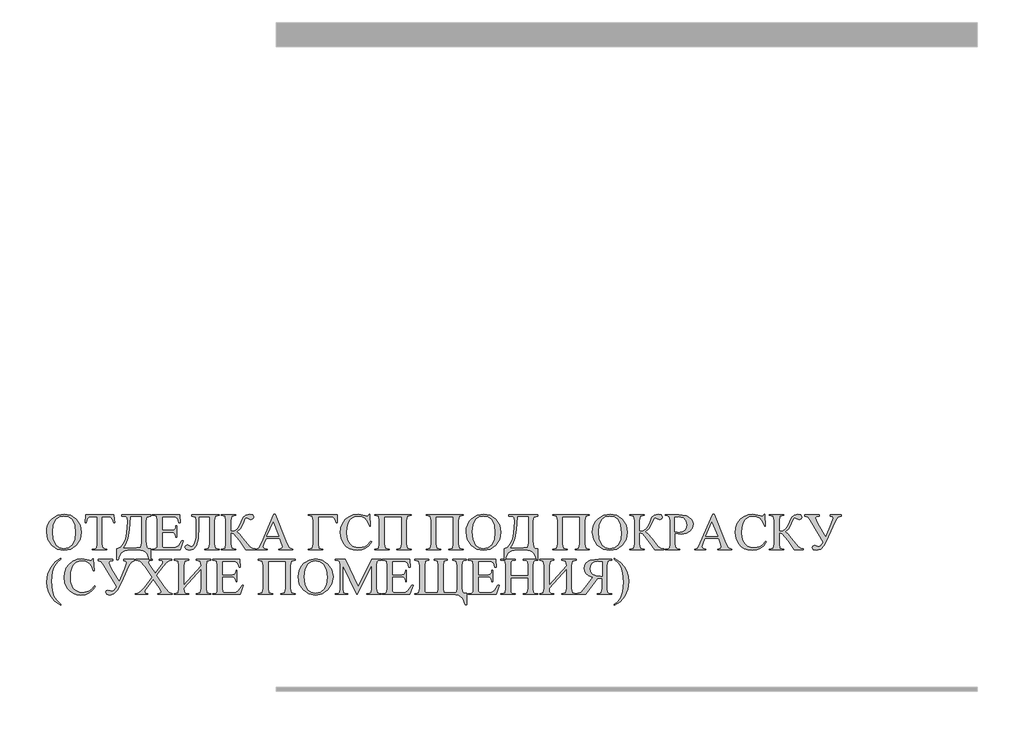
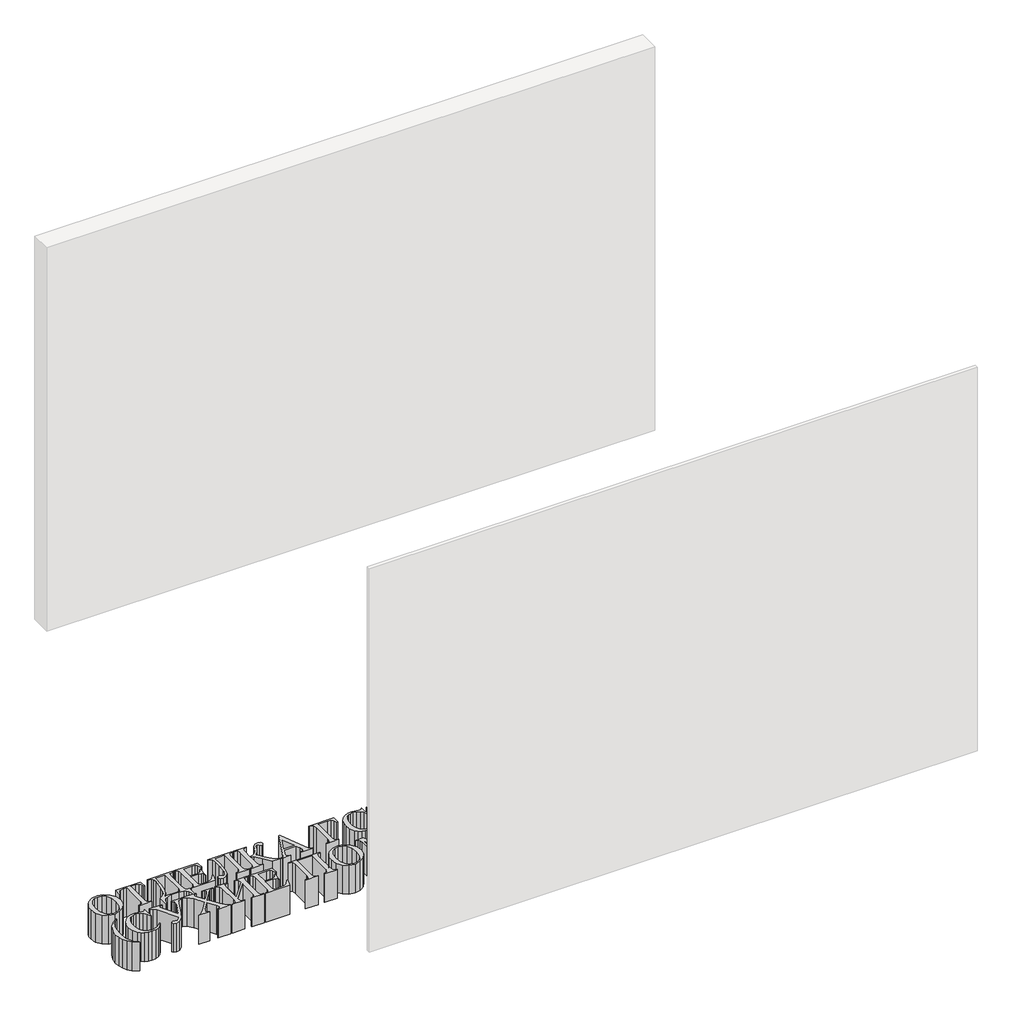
# One storey, part 6 of 17: 1 proxy.
"""IFC4 building model written with IfcOpenShell, lengths in millimetres."""

from ifc_helpers import new_model, si_unit, origin, origin_with_axes, place, context, project, spatial, polyline, outline, extrude, element, save

model = new_model("IFC4")

# Units and contexts
model_context = context("Model", 3, world=origin())
ifc_project = project(units=[si_unit("LENGTHUNIT", "METRE", prefix="MILLI")], contexts=[model_context])

# Site, building, storey
site = spatial("IfcSite", under=ifc_project)
building = spatial("IfcBuilding", under=site)
storey = spatial("IfcBuildingStorey", under=building, Name="Уровень 1", Elevation=0.0)

# Proxy
placement = place(None, origin())
element("IfcBuildingElementProxy", 1, Name="SG_Текст 2", ObjectType="SG_Текст 2", at=placement, inside=storey, context=model_context, shape_type="SweptSolid", body=[
    extrude(outline(polyline([(-694.4542029, -4581.7651295), (-666.748358, -4587.2258459), (-643.0048009, -4603.6079952), (-626.682991, -4628.1560778), (-621.2423877, -4658.1145939), (-626.7232173, -4688.9228901), (-643.165706, -4714.008999), (-667.3919784, -4730.6777605), (-696.2241589, -4736.2340144), (-725.2021597, -4730.8135242), (-749.1418199, -4714.5520537), (-765.2071873, -4689.682161), (-770.5623098, -4658.4364041), (-769.0161124, -4641.6645628), (-764.3775204, -4626.5068006), (-756.6465337, -4612.9631176), (-745.8231524, -4601.0335138), (-722.2405004, -4586.5822256), (-694.4542029, -4581.7651295)]), holes=[polyline([(-696.5861954, -4589.4885737), (-715.0299411, -4593.1692776), (-729.4108334, -4604.2113893), (-740.9658301, -4626.8084977), (-744.8174956, -4657.9134626), (-740.8250381, -4689.9536883), (-728.8476656, -4713.6670757), (-714.6176218, -4724.7996965), (-696.4655165, -4728.5105701), (-676.8552089, -4724.4477166), (-660.9859445, -4712.2591562), (-650.4868875, -4691.311325), (-646.9872019, -4660.9706593), (-650.8388674, -4627.824211), (-662.3938641, -4604.3320681), (-677.1166797, -4593.1994473), (-696.5861954, -4589.4885737)])]), origin_with_axes(), (0.0, 0.0, 1.0), 150.0),
    extrude(outline(polyline([(-482.2203913, -4584.3396109), (-479.6459099, -4617.8078693), (-483.8294422, -4617.8078693), (-487.2486753, -4604.5331995), (-496.6012836, -4595.1001387), (-512.028059, -4592.0630551), (-533.7100196, -4592.0630551), (-533.7100196, -4707.9147188), (-530.813728, -4726.1774463), (-518.1826786, -4731.0850515), (-513.1141683, -4731.0850515), (-513.1141683, -4733.6595329), (-574.9017223, -4733.6595329), (-574.9017223, -4731.0850515), (-569.7527594, -4731.0850515), (-561.8784667, -4729.5665098), (-556.679221, -4725.0108844), (-554.3058709, -4707.9147188), (-554.3058709, -4592.0630551), (-572.1663357, -4592.0630551), (-586.9696039, -4593.5916535), (-596.744588, -4601.657021), (-601.5717407, -4617.8078693), (-605.7954992, -4617.8078693), (-603.2210178, -4584.3396109), (-482.2203913, -4584.3396109)])), origin_with_axes(), (0.0, 0.0, 1.0), 150.0),
    extrude(outline(polyline([(-448.7521329, -4584.3396109), (-325.1770251, -4584.3396109), (-325.1770251, -4589.4885737), (-342.0921725, -4593.8732374), (-345.7728764, -4612.4577751), (-345.7728764, -4694.6802753), (-343.0173767, -4724.1661327), (-337.179539, -4728.3898913), (-325.1770251, -4729.7978108), (-325.1770251, -4777.425717), (-330.3259879, -4777.425717), (-340.6038004, -4750.6551329), (-348.1763961, -4742.1824743), (-356.6943092, -4737.0787661), (-378.235478, -4733.6595329), (-415.0827432, -4733.6595329), (-436.0506875, -4737.1089358), (-450.6025415, -4747.4571443), (-459.6735658, -4761.8480931), (-464.1990214, -4777.425717), (-469.3479843, -4777.425717), (-469.3479843, -4729.7978108), (-453.9966332, -4723.7538134), (-441.813101, -4708.679018), (-432.837614, -4686.8562654), (-427.1103986, -4660.5683965), (-423.0073188, -4613.7852421), (-425.8633841, -4597.6947332), (-432.641511, -4591.2384166), (-448.7521329, -4589.4885737), (-448.7521329, -4584.3396109)]), holes=[polyline([(-410.1349117, -4592.0630551), (-414.0971995, -4647.9826017), (-420.5132899, -4684.2817839), (-429.4636355, -4707.9398602), (-441.0286887, -4725.9360887), (-386.6427688, -4725.9360887), (-369.2449061, -4723.3414941), (-366.3687277, -4706.4263467), (-366.3687277, -4592.0630551), (-410.1349117, -4592.0630551)])]), origin_with_axes(), (0.0, 0.0, 1.0), 150.0),
    extrude(outline(polyline([(-276.2618782, -4592.0630551), (-276.2618782, -4651.2761277), (-240.2191384, -4651.2761277), (-223.3643304, -4647.6155369), (-218.949497, -4640.9681455), (-217.0488056, -4630.6802764), (-214.4743242, -4630.6802764), (-214.4743242, -4679.5954232), (-217.0488056, -4679.5954232), (-220.1060023, -4666.6425636), (-226.5019796, -4661.0309987), (-240.2191384, -4658.9995719), (-276.2618782, -4658.9995719), (-276.2618782, -4708.9606019), (-275.3366739, -4721.1893886), (-272.098459, -4724.648848), (-263.3492448, -4725.9360887), (-236.7999052, -4725.9360887), (-217.5114078, -4724.0856802), (-205.9463545, -4716.7644987), (-191.3039915, -4695.0423117), (-186.1550287, -4695.0423117), (-199.7515086, -4733.6595329), (-317.4535808, -4733.6595329), (-317.4535808, -4731.0850515), (-312.3448443, -4731.0850515), (-302.6905389, -4728.4301176), (-298.0846308, -4722.9392314), (-296.8577295, -4707.9147188), (-296.8577295, -4610.084425), (-299.6333423, -4591.5803399), (-312.3448443, -4586.9140923), (-317.4535808, -4586.9140923), (-317.4535808, -4584.3396109), (-201.6019172, -4584.3396109), (-199.0274357, -4617.8078693), (-204.1763986, -4617.8078693), (-209.4460402, -4600.8323825), (-218.0142362, -4593.7927848), (-234.0242925, -4592.0630551), (-276.2618782, -4592.0630551)])), origin_with_axes(), (0.0, 0.0, 1.0), 150.0),
    extrude(outline(polyline([(-72.8778464, -4592.0630551), (-119.2185119, -4592.0630551), (-119.2185119, -4634.2604146), (-122.0041812, -4686.9316896), (-130.3611893, -4717.1868745), (-143.6157459, -4731.4722294), (-161.0940612, -4736.2340144), (-173.926242, -4732.2516134), (-178.4315844, -4722.9995708), (-175.5352928, -4716.0203126), (-168.4956952, -4713.0636816), (-160.5711196, -4716.7242724), (-151.5202084, -4720.7871259), (-142.6855134, -4716.7896401), (-135.650944, -4704.7971827), (-131.0500642, -4681.6519914), (-129.5164376, -4644.1963038), (-129.5164376, -4612.739359), (-133.1971414, -4593.9134637), (-150.1122889, -4589.4885737), (-150.1122889, -4584.3396109), (-31.6861438, -4584.3396109), (-31.6861438, -4586.9140923), (-48.6012912, -4591.3188691), (-52.2819951, -4610.084425), (-52.2819951, -4707.9147188), (-48.6012912, -4726.6802747), (-31.6861438, -4731.0850515), (-31.6861438, -4733.6595329), (-93.4736977, -4733.6595329), (-93.4736977, -4731.0850515), (-76.5585503, -4726.6802747), (-72.8778464, -4707.9147188), (-72.8778464, -4592.0630551)])), origin_with_axes(), (0.0, 0.0, 1.0), 150.0),
    extrude(outline(polyline([(121.4150478, -4729.5564532), (121.4150478, -4733.6595329), (82.4357901, -4733.6595329), (55.6450929, -4695.826724), (30.7450305, -4664.8524945), (17.2290031, -4661.5740533), (17.2290031, -4707.9147188), (20.8493676, -4726.6802747), (37.8248544, -4731.0850515), (37.8248544, -4733.6595329), (-23.9626996, -4733.6595329), (-23.9626996, -4731.0850515), (-7.0877784, -4726.720501), (-3.3668482, -4707.9147188), (-3.3668482, -4610.084425), (-7.0475521, -4591.3188691), (-23.9626996, -4586.9140923), (-23.9626996, -4584.3396109), (37.8248544, -4584.3396109), (37.8248544, -4586.9140923), (20.8493676, -4591.3188691), (17.2290031, -4610.084425), (17.2290031, -4653.8506091), (34.1039242, -4652.2214451), (44.6432075, -4645.3025263), (53.9153632, -4633.6570205), (62.6846905, -4613.1416217), (70.8908501, -4594.5168577), (81.1083232, -4585.5262859), (97.8424524, -4581.7651295), (110.7550857, -4584.8625524), (115.0592968, -4594.1548213), (111.6601768, -4601.7173605), (103.8763932, -4604.9354622), (93.3773362, -4600.8726087), (84.3666512, -4597.212018), (78.2120316, -4600.9530613), (70.0460983, -4620.0203143), (57.8575379, -4643.4018349), (42.6922333, -4656.344638), (53.3924217, -4665.1340784), (69.3220254, -4684.9052912), (98.4056202, -4720.4653157), (108.8644509, -4727.1428769), (121.4150478, -4729.5564532)])), origin_with_axes(), (0.0, 0.0, 1.0), 150.0),
    extrude(outline(polyline([(226.6872019, -4684.7443861), (168.4395599, -4684.7443861), (158.8254809, -4707.1101934), (155.0844376, -4721.0284835), (158.3427656, -4727.464687), (172.4219608, -4731.0850515), (172.4219608, -4733.6595329), (124.9549598, -4733.6595329), (124.9549598, -4731.0850515), (137.1032939, -4726.418804), (149.6136646, -4703.0473399), (201.9882708, -4581.7651295), (207.4992701, -4581.7651295), (256.6557746, -4705.0184272), (268.1202622, -4725.7349573), (282.440815, -4731.0850515), (282.440815, -4733.6595329), (223.4288739, -4733.6595329), (223.4288739, -4731.0850515), (235.5168686, -4727.7663841), (238.674631, -4720.8675784), (234.2497411, -4703.7311865), (226.6872019, -4684.7443861)]), holes=[polyline([(223.5897789, -4677.0209418), (198.7299428, -4616.3999498), (171.7783405, -4677.0209418), (223.5897789, -4677.0209418)])]), origin_with_axes(), (0.0, 0.0, 1.0), 150.0),
    extrude(outline(polyline([(472.2685931, -4584.3396109), (472.9122134, -4617.8078693), (467.7632506, -4617.8078693), (462.9964374, -4601.496116), (452.5174935, -4593.7123323), (434.5765761, -4592.0630551), (390.5288082, -4592.0630551), (390.5288082, -4707.9147188), (394.1893989, -4726.6802747), (411.1246595, -4731.0850515), (411.1246595, -4733.6595329), (349.3371055, -4733.6595329), (349.3371055, -4731.0850515), (366.252253, -4726.6802747), (369.9329569, -4707.9147188), (369.9329569, -4610.084425), (366.252253, -4591.3188691), (349.3371055, -4586.9140923), (349.3371055, -4584.3396109), (472.2685931, -4584.3396109)])), origin_with_axes(), (0.0, 0.0, 1.0), 150.0),
    extrude(outline(polyline([(611.9342098, -4581.7651295), (614.5086912, -4633.2547578), (611.9342098, -4633.2547578), (603.8235877, -4613.2271026), (592.8468437, -4599.72616), (579.2051092, -4592.0479703), (563.0995155, -4589.4885737), (549.2365365, -4591.3440105), (536.7714204, -4596.9103209), (526.2623068, -4606.5445131), (518.2673352, -4620.6035952), (513.2139098, -4638.8612945), (511.5294346, -4661.0913381), (513.1334572, -4679.7161021), (517.945525, -4695.6859321), (525.9857512, -4708.6186786), (537.2742488, -4718.1321919), (551.0919733, -4723.9851145), (566.71988, -4725.9360887), (592.0825445, -4720.2440712), (603.6224563, -4711.7412429), (616.2384209, -4697.6167931), (619.6576541, -4700.1912746), (607.5445179, -4716.3873774), (593.5709166, -4727.5652527), (577.2641915, -4734.0668239), (558.151684, -4736.2340144), (540.7110809, -4734.5319402), (525.3572157, -4729.4257178), (512.0900883, -4720.9153471), (500.9096988, -4709.0008281), (489.5658901, -4686.9367179), (485.7846205, -4661.2924694), (488.2836777, -4640.0680826), (495.7808491, -4620.6438215), (507.6626842, -4604.206361), (523.3157324, -4591.9423763), (541.668969, -4584.3094412), (561.6513697, -4581.7651295), (593.5105772, -4587.6783915), (600.1076858, -4589.4885737), (605.2968749, -4587.9197491), (609.3597284, -4581.7651295), (611.9342098, -4581.7651295)])), origin_with_axes(), (0.0, 0.0, 1.0), 150.0),
    extrude(outline(polyline([(748.3817248, -4592.0630551), (673.7217638, -4592.0630551), (673.7217638, -4707.9147188), (677.3421282, -4726.6802747), (694.3176151, -4731.0850515), (694.3176151, -4733.6595329), (632.5300611, -4733.6595329), (632.5300611, -4731.0850515), (649.4452085, -4726.6802747), (653.1259124, -4707.9147188), (653.1259124, -4610.084425), (649.4452085, -4591.3188691), (632.5300611, -4586.9140923), (632.5300611, -4584.3396109), (789.5734274, -4584.3396109), (789.5734274, -4586.9140923), (772.65828, -4591.3188691), (768.9775761, -4610.084425), (768.9775761, -4707.9147188), (772.65828, -4726.6802747), (789.5734274, -4731.0850515), (789.5734274, -4733.6595329), (727.7858735, -4733.6595329), (727.7858735, -4731.0850515), (744.6809077, -4726.720501), (748.3817248, -4707.9147188), (748.3817248, -4592.0630551)])), origin_with_axes(), (0.0, 0.0, 1.0), 150.0),
    extrude(outline(polyline([(969.7871264, -4592.0630551), (895.1271654, -4592.0630551), (895.1271654, -4707.9147188), (898.7475299, -4726.6802747), (915.7230167, -4731.0850515), (915.7230167, -4733.6595329), (853.9354628, -4733.6595329), (853.9354628, -4731.0850515), (870.8506102, -4726.6802747), (874.5313141, -4707.9147188), (874.5313141, -4610.084425), (870.8506102, -4591.3188691), (853.9354628, -4586.9140923), (853.9354628, -4584.3396109), (1010.978829, -4584.3396109), (1010.978829, -4586.9140923), (994.0636816, -4591.3188691), (990.3829777, -4610.084425), (990.3829777, -4707.9147188), (994.0636816, -4726.6802747), (1010.978829, -4731.0850515), (1010.978829, -4733.6595329), (949.1912751, -4733.6595329), (949.1912751, -4731.0850515), (966.0863094, -4726.720501), (969.7871264, -4707.9147188), (969.7871264, -4592.0630551)])), origin_with_axes(), (0.0, 0.0, 1.0), 150.0),
    extrude(outline(polyline([(1099.9593429, -4581.7651295), (1127.6651878, -4587.2258459), (1151.408745, -4603.6079952), (1167.7305549, -4628.1560778), (1173.1711582, -4658.1145939), (1167.6903286, -4688.9228901), (1151.2478399, -4714.008999), (1127.0215675, -4730.6777605), (1098.189387, -4736.2340144), (1069.2113862, -4730.8135242), (1045.271726, -4714.5520537), (1029.2063586, -4689.682161), (1023.8512361, -4658.4364041), (1025.3974335, -4641.6645628), (1030.0360255, -4626.5068006), (1037.7670121, -4612.9631176), (1048.5903935, -4601.0335138), (1072.1730455, -4586.5822256), (1099.9593429, -4581.7651295)]), holes=[polyline([(1097.8273505, -4589.4885737), (1079.3836048, -4593.1692776), (1065.0027125, -4604.2113893), (1053.4477158, -4626.8084977), (1049.5960503, -4657.9134626), (1053.5885078, -4689.9536883), (1065.5658803, -4713.6670757), (1079.795924, -4724.7996965), (1097.9480293, -4728.5105701), (1117.558337, -4724.4477166), (1133.4276013, -4712.2591562), (1143.9266583, -4691.311325), (1147.426344, -4660.9706593), (1143.5746785, -4627.824211), (1132.0196818, -4604.3320681), (1117.2968662, -4593.1994473), (1097.8273505, -4589.4885737)])]), origin_with_axes(), (0.0, 0.0, 1.0), 150.0),
    extrude(outline(polyline([(1206.6394165, -4584.3396109), (1330.2145244, -4584.3396109), (1330.2145244, -4589.4885737), (1313.299377, -4593.8732374), (1309.6186731, -4612.4577751), (1309.6186731, -4694.6802753), (1312.3741728, -4724.1661327), (1318.2120105, -4728.3898913), (1330.2145244, -4729.7978108), (1330.2145244, -4777.425717), (1325.0655616, -4777.425717), (1314.7877491, -4750.6551329), (1307.2151534, -4742.1824743), (1298.6972403, -4737.0787661), (1277.1560715, -4733.6595329), (1240.3088063, -4733.6595329), (1219.340862, -4737.1089358), (1204.789008, -4747.4571443), (1195.7179837, -4761.8480931), (1191.1925281, -4777.425717), (1186.0435652, -4777.425717), (1186.0435652, -4729.7978108), (1201.3949163, -4723.7538134), (1213.5784485, -4708.679018), (1222.5539354, -4686.8562654), (1228.2811509, -4660.5683965), (1232.3842307, -4613.7852421), (1229.5281654, -4597.6947332), (1222.7500385, -4591.2384166), (1206.6394165, -4589.4885737), (1206.6394165, -4584.3396109)]), holes=[polyline([(1245.2566378, -4592.0630551), (1241.29435, -4647.9826017), (1234.8782596, -4684.2817839), (1225.927914, -4707.9398602), (1214.3628608, -4725.9360887), (1268.7487807, -4725.9360887), (1286.1466434, -4723.3414941), (1289.0228218, -4706.4263467), (1289.0228218, -4592.0630551), (1245.2566378, -4592.0630551)])]), origin_with_axes(), (0.0, 0.0, 1.0), 150.0),
    extrude(outline(polyline([(1510.4282235, -4592.0630551), (1435.7682624, -4592.0630551), (1435.7682624, -4707.9147188), (1439.3886269, -4726.6802747), (1456.3641137, -4731.0850515), (1456.3641137, -4733.6595329), (1394.5765598, -4733.6595329), (1394.5765598, -4731.0850515), (1411.4917072, -4726.6802747), (1415.1724111, -4707.9147188), (1415.1724111, -4610.084425), (1411.4917072, -4591.3188691), (1394.5765598, -4586.9140923), (1394.5765598, -4584.3396109), (1551.6199261, -4584.3396109), (1551.6199261, -4586.9140923), (1534.7047787, -4591.3188691), (1531.0240748, -4610.084425), (1531.0240748, -4707.9147188), (1534.7047787, -4726.6802747), (1551.6199261, -4731.0850515), (1551.6199261, -4733.6595329), (1489.8323721, -4733.6595329), (1489.8323721, -4731.0850515), (1506.7274064, -4726.720501), (1510.4282235, -4707.9147188), (1510.4282235, -4592.0630551)])), origin_with_axes(), (0.0, 0.0, 1.0), 150.0),
    extrude(outline(polyline([(1640.60044, -4581.7651295), (1668.3062849, -4587.2258459), (1692.049842, -4603.6079952), (1708.3716519, -4628.1560778), (1713.8122552, -4658.1145939), (1708.3314256, -4688.9228901), (1691.8889369, -4714.008999), (1667.6626645, -4730.6777605), (1638.830484, -4736.2340144), (1609.8524832, -4730.8135242), (1585.912823, -4714.5520537), (1569.8474556, -4689.682161), (1564.4923332, -4658.4364041), (1566.0385305, -4641.6645628), (1570.6771225, -4626.5068006), (1578.4081092, -4612.9631176), (1589.2314905, -4601.0335138), (1612.8141425, -4586.5822256), (1640.60044, -4581.7651295)]), holes=[polyline([(1638.4684475, -4589.4885737), (1620.0247018, -4593.1692776), (1605.6438095, -4604.2113893), (1594.0888129, -4626.8084977), (1590.2371473, -4657.9134626), (1594.2296048, -4689.9536883), (1606.2069773, -4713.6670757), (1620.4370211, -4724.7996965), (1638.5891264, -4728.5105701), (1658.199434, -4724.4477166), (1674.0686984, -4712.2591562), (1684.5677554, -4691.311325), (1688.067441, -4660.9706593), (1684.2157755, -4627.824211), (1672.6607788, -4604.3320681), (1657.9379632, -4593.1994473), (1638.4684475, -4589.4885737)])]), origin_with_axes(), (0.0, 0.0, 1.0), 150.0),
    extrude(outline(polyline([(1869.4879282, -4729.5564532), (1869.4879282, -4733.6595329), (1830.5086706, -4733.6595329), (1803.7179733, -4695.826724), (1778.8179109, -4664.8524945), (1765.3018835, -4661.5740533), (1765.3018835, -4707.9147188), (1768.922248, -4726.6802747), (1785.8977348, -4731.0850515), (1785.8977348, -4733.6595329), (1724.1101809, -4733.6595329), (1724.1101809, -4731.0850515), (1740.985102, -4726.720501), (1744.7060322, -4707.9147188), (1744.7060322, -4610.084425), (1741.0253283, -4591.3188691), (1724.1101809, -4586.9140923), (1724.1101809, -4584.3396109), (1785.8977348, -4584.3396109), (1785.8977348, -4586.9140923), (1768.922248, -4591.3188691), (1765.3018835, -4610.084425), (1765.3018835, -4653.8506091), (1782.1768046, -4652.2214451), (1792.7160879, -4645.3025263), (1801.9882436, -4633.6570205), (1810.757571, -4613.1416217), (1818.9637305, -4594.5168577), (1829.1812036, -4585.5262859), (1845.9153328, -4581.7651295), (1858.8279661, -4584.8625524), (1863.1321772, -4594.1548213), (1859.7330572, -4601.7173605), (1851.9492736, -4604.9354622), (1841.4502166, -4600.8726087), (1832.4395316, -4597.212018), (1826.284912, -4600.9530613), (1818.1189788, -4620.0203143), (1805.9304183, -4643.4018349), (1790.7651137, -4656.344638), (1801.4653021, -4665.1340784), (1817.3949059, -4684.9052912), (1846.4785006, -4720.4653157), (1856.9373313, -4727.1428769), (1869.4879282, -4729.5564532)])), origin_with_axes(), (0.0, 0.0, 1.0), 150.0),
    extrude(outline(polyline([(1917.1962869, -4663.3842356), (1917.1962869, -4707.9147188), (1920.1730311, -4726.0567675), (1932.281139, -4731.0850515), (1937.7921383, -4731.0850515), (1937.7921383, -4733.6595329), (1876.0045843, -4733.6595329), (1876.0045843, -4731.0850515), (1881.435131, -4731.0850515), (1889.259141, -4729.4860572), (1894.4684432, -4724.6890743), (1896.6004356, -4707.9147188), (1896.6004356, -4610.084425), (1893.7443703, -4591.9423763), (1881.435131, -4586.9140923), (1876.0045843, -4586.9140923), (1876.0045843, -4584.3396109), (1932.9649856, -4584.3396109), (1965.8901893, -4588.4628038), (1976.9876121, -4594.0039728), (1986.1843436, -4602.3810939), (1992.3691329, -4613.076254), (1994.4307294, -4625.5715398), (1991.1623448, -4642.1296791), (1981.3571909, -4655.2786418), (1965.5884923, -4663.8619226), (1944.4294731, -4666.7230162), (1931.7581974, -4665.8782645), (1917.1962869, -4663.3842356)]), holes=[polyline([(1917.1962869, -4656.787127), (1928.741227, -4658.4364041), (1937.3496493, -4658.9995719), (1949.2616541, -4656.7670138), (1959.4137595, -4650.0693395), (1966.3678763, -4639.8116401), (1968.6859152, -4626.8990068), (1964.2610253, -4608.7770712), (1951.7305415, -4596.2264743), (1933.2867958, -4592.0630551), (1917.1962869, -4594.1548213), (1917.1962869, -4656.787127)])]), origin_with_axes(), (0.0, 0.0, 1.0), 150.0),
    extrude(outline(polyline([(2103.484153, -4684.7443861), (2045.236511, -4684.7443861), (2035.622432, -4707.1101934), (2031.8813887, -4721.0284835), (2035.1397167, -4727.464687), (2049.218912, -4731.0850515), (2049.218912, -4733.6595329), (2001.7519109, -4733.6595329), (2001.7519109, -4731.0850515), (2013.9002451, -4726.418804), (2026.4106157, -4703.0473399), (2078.785222, -4581.7651295), (2084.2962212, -4581.7651295), (2133.4527257, -4705.0184272), (2144.9172133, -4725.7349573), (2159.2377662, -4731.0850515), (2159.2377662, -4733.6595329), (2100.225825, -4733.6595329), (2100.225825, -4731.0850515), (2112.3138198, -4727.7663841), (2115.4715821, -4720.8675784), (2111.0466922, -4703.7311865), (2103.484153, -4684.7443861)]), holes=[polyline([(2100.3867301, -4677.0209418), (2075.5268939, -4616.3999498), (2048.5752916, -4677.0209418), (2100.3867301, -4677.0209418)])]), origin_with_axes(), (0.0, 0.0, 1.0), 150.0),
    extrude(outline(polyline([(2300.7940177, -4581.7651295), (2303.3684991, -4633.2547578), (2300.7940177, -4633.2547578), (2292.6833956, -4613.2271026), (2281.7066516, -4599.72616), (2268.0649171, -4592.0479703), (2251.9593234, -4589.4885737), (2238.0963443, -4591.3440105), (2225.6312283, -4596.9103209), (2215.1221147, -4606.5445131), (2207.1271431, -4620.6035952), (2202.0737177, -4638.8612945), (2200.3892425, -4661.0913381), (2201.9932651, -4679.7161021), (2206.8053329, -4695.6859321), (2214.8455591, -4708.6186786), (2226.1340567, -4718.1321919), (2239.9517811, -4723.9851145), (2255.5796878, -4725.9360887), (2280.9423524, -4720.2440712), (2292.4822642, -4711.7412429), (2305.0982288, -4697.6167931), (2308.5174619, -4700.1912746), (2296.4043257, -4716.3873774), (2282.4307245, -4727.5652527), (2266.1239994, -4734.0668239), (2247.0114919, -4736.2340144), (2229.5708888, -4734.5319402), (2214.2170236, -4729.4257178), (2200.9498962, -4720.9153471), (2189.7695067, -4709.0008281), (2178.425698, -4686.9367179), (2174.6444284, -4661.2924694), (2177.1434855, -4640.0680826), (2184.640657, -4620.6438215), (2196.5224921, -4604.206361), (2212.1755403, -4591.9423763), (2230.5287769, -4584.3094412), (2250.5111776, -4581.7651295), (2282.3703851, -4587.6783915), (2288.9674937, -4589.4885737), (2294.1566828, -4587.9197491), (2298.2195363, -4581.7651295), (2300.7940177, -4581.7651295)])), origin_with_axes(), (0.0, 0.0, 1.0), 150.0),
    extrude(outline(polyline([(2466.7676164, -4729.5564532), (2466.7676164, -4733.6595329), (2427.7883587, -4733.6595329), (2400.9976615, -4695.826724), (2376.0975991, -4664.8524945), (2362.5815716, -4661.5740533), (2362.5815716, -4707.9147188), (2366.2019361, -4726.6802747), (2383.177423, -4731.0850515), (2383.177423, -4733.6595329), (2321.389869, -4733.6595329), (2321.389869, -4731.0850515), (2338.2647902, -4726.720501), (2341.9857203, -4707.9147188), (2341.9857203, -4610.084425), (2338.3050164, -4591.3188691), (2321.389869, -4586.9140923), (2321.389869, -4584.3396109), (2383.177423, -4584.3396109), (2383.177423, -4586.9140923), (2366.2019361, -4591.3188691), (2362.5815716, -4610.084425), (2362.5815716, -4653.8506091), (2379.4564928, -4652.2214451), (2389.9957761, -4645.3025263), (2399.2679318, -4633.6570205), (2408.0372591, -4613.1416217), (2416.2434186, -4594.5168577), (2426.4608917, -4585.5262859), (2443.1950209, -4581.7651295), (2456.1076543, -4584.8625524), (2460.4118654, -4594.1548213), (2457.0127454, -4601.7173605), (2449.2289617, -4604.9354622), (2438.7299047, -4600.8726087), (2429.7192198, -4597.212018), (2423.5646001, -4600.9530613), (2415.3986669, -4620.0203143), (2403.2101065, -4643.4018349), (2388.0448019, -4656.344638), (2398.7449903, -4665.1340784), (2414.674594, -4684.9052912), (2443.7581887, -4720.4653157), (2454.2170195, -4727.1428769), (2466.7676164, -4729.5564532)])), origin_with_axes(), (0.0, 0.0, 1.0), 150.0),
    extrude(outline(polyline([(2473.2842725, -4584.3396109), (2535.0718264, -4584.3396109), (2535.0718264, -4589.4885737), (2521.555799, -4591.7613581), (2517.0504565, -4597.3729231), (2528.9976593, -4622.9970584), (2562.1038813, -4679.9574597), (2586.5614547, -4622.9970584), (2594.2848989, -4599.3037841), (2591.0667972, -4592.8675806), (2581.4124919, -4589.4885737), (2581.4124919, -4584.3396109), (2627.7531573, -4584.3396109), (2627.7531573, -4589.4885737), (2613.2415297, -4595.814155), (2602.6921898, -4611.0096293), (2573.6890476, -4678.7506715), (2555.3257544, -4715.5375974), (2539.8989791, -4731.2459566), (2522.5614558, -4736.2340144), (2509.5080305, -4733.1365914), (2504.1780494, -4724.6890743), (2506.9134359, -4718.2126445), (2514.3552963, -4715.638163), (2525.3370686, -4718.8160385), (2531.8134984, -4720.7871259), (2540.9850884, -4715.9499167), (2551.2025615, -4701.438289), (2496.7764154, -4607.9122064), (2486.3175846, -4594.697876), (2473.2842725, -4589.4885737), (2473.2842725, -4584.3396109)])), origin_with_axes(), (0.0, 0.0, 1.0), 150.0),
    extrude(outline(polyline([(-708.7747558, -4966.0429382), (-708.7747558, -4971.191901), (-736.9733725, -4951.963743), (-751.2536991, -4934.9128319), (-761.8332087, -4915.0561383), (-768.3800345, -4893.3892625), (-770.5623098, -4870.9078047), (-766.2832401, -4838.9078052), (-753.446031, -4809.8443236), (-733.7200728, -4786.1812191), (-708.7747558, -4770.3823507), (-708.7747558, -4775.5313135), (-721.632078, -4784.144764), (-731.9652017, -4795.4232051), (-739.884749, -4809.7236448), (-745.5013422, -4827.4030914), (-749.9664584, -4867.850608), (-746.1851889, -4909.4445734), (-738.964573, -4933.1378476), (-727.5403117, -4950.3144658), (-708.7747558, -4966.0429382)])), origin_with_axes(), (0.0, 0.0, 1.0), 150.0),
    extrude(outline(polyline([(-569.7527594, -4772.9568321), (-567.178278, -4824.4464604), (-569.7527594, -4824.4464604), (-577.8633815, -4804.4188052), (-588.8401255, -4790.9178626), (-602.4818601, -4783.2396729), (-618.5874538, -4780.6802764), (-632.4504328, -4782.5357132), (-644.9155488, -4788.1020236), (-655.4246624, -4797.7362157), (-663.419634, -4811.7952978), (-668.4730594, -4830.0529971), (-670.1575346, -4852.2830407), (-668.553512, -4870.9078047), (-663.7414442, -4886.8776347), (-655.7012181, -4899.8103812), (-644.4127204, -4909.3238945), (-630.594996, -4915.1768171), (-614.9670893, -4917.1277913), (-589.6044247, -4911.4357738), (-578.0645129, -4902.9329456), (-565.4485483, -4888.8084958), (-562.0293152, -4891.3829772), (-574.1424514, -4907.57908), (-588.1160526, -4918.7569554), (-604.4227777, -4925.2585266), (-623.5352852, -4927.425717), (-640.9758883, -4925.7236429), (-656.3297536, -4920.6174204), (-669.5968809, -4912.1070497), (-680.7772704, -4900.1925308), (-692.1210792, -4878.1284205), (-695.9023487, -4852.4841721), (-693.4032916, -4831.2597852), (-685.9061201, -4811.8355241), (-674.024285, -4795.3980637), (-658.3712369, -4783.134079), (-640.0180002, -4775.5011438), (-620.0355995, -4772.9568321), (-588.176392, -4778.8700941), (-581.5792834, -4780.6802764), (-576.3900943, -4779.1114518), (-572.3272408, -4772.9568321), (-569.7527594, -4772.9568321)])), origin_with_axes(), (0.0, 0.0, 1.0), 150.0),
    extrude(outline(polyline([(-549.1569081, -4775.5313135), (-487.3693542, -4775.5313135), (-487.3693542, -4780.6802764), (-500.8853816, -4782.9530607), (-505.3907241, -4788.5646257), (-493.4435212, -4814.188761), (-460.3372993, -4871.1491623), (-435.8797259, -4814.188761), (-428.1562816, -4790.4954868), (-431.3743834, -4784.0592832), (-441.0286887, -4780.6802764), (-441.0286887, -4775.5313135), (-394.6880232, -4775.5313135), (-394.6880232, -4780.6802764), (-409.1996509, -4787.0058577), (-419.7489908, -4802.2013319), (-448.7521329, -4869.9423742), (-467.1154262, -4906.7293), (-482.5422015, -4922.4376592), (-499.8797248, -4927.425717), (-512.9331501, -4924.328294), (-518.2631311, -4915.8807769), (-515.5277446, -4909.4043471), (-508.0858843, -4906.8298657), (-497.104112, -4910.0077412), (-490.6276822, -4911.9788285), (-481.4560922, -4907.1416193), (-471.238619, -4892.6299916), (-525.6647652, -4799.103909), (-536.1235959, -4785.8895786), (-549.1569081, -4780.6802764), (-549.1569081, -4775.5313135)])), origin_with_axes(), (0.0, 0.0, 1.0), 150.0),
    extrude(outline(polyline([(-300.5987728, -4842.427604), (-268.5384339, -4889.7739263), (-248.6666555, -4916.1824739), (-232.2543365, -4922.2767542), (-232.2543365, -4924.8512356), (-295.4095837, -4924.8512356), (-295.4095837, -4922.2767542), (-285.9161835, -4920.8688346), (-282.0946876, -4917.6105066), (-280.6063156, -4913.1856167), (-281.5717461, -4907.7550699), (-287.6861395, -4897.3364655), (-313.4309536, -4859.3226383), (-344.1235992, -4899.5891367), (-350.0972006, -4908.6199348), (-351.0827443, -4913.3062955), (-348.1060001, -4919.4810282), (-336.7219651, -4922.2767542), (-336.7219651, -4924.8512356), (-390.4240384, -4924.8512356), (-390.4240384, -4922.2767542), (-380.6892805, -4919.8229516), (-367.6559684, -4911.5966789), (-353.4963206, -4895.7676408), (-319.2235368, -4850.7544424), (-348.3473578, -4807.1893897), (-368.8225303, -4783.9587175), (-388.1713672, -4778.105795), (-388.1713672, -4775.5313135), (-319.1833105, -4775.5313135), (-319.1833105, -4778.105795), (-331.2914184, -4781.2032179), (-334.5497465, -4787.277385), (-329.2398785, -4800.1497921), (-306.391356, -4833.8996344), (-279.8420164, -4799.0636827), (-274.1298858, -4790.9580889), (-273.0840027, -4786.4326333), (-274.4114697, -4782.3697798), (-278.6151151, -4779.151678), (-289.1342852, -4778.105795), (-289.1342852, -4775.5313135), (-235.8344747, -4775.5313135), (-235.8344747, -4778.105795), (-246.1324004, -4780.1573348), (-257.0739464, -4787.1567062), (-271.1129153, -4803.4885726), (-300.5987728, -4842.427604)])), origin_with_axes(), (0.0, 0.0, 1.0), 150.0),
    extrude(outline(polyline([(-108.9205862, -4801.2761277), (-113.0035529, -4782.1284222), (-129.5164376, -4778.105795), (-129.5164376, -4775.5313135), (-67.7288836, -4775.5313135), (-67.7288836, -4778.105795), (-84.644031, -4782.5105717), (-88.3247349, -4801.2761277), (-88.3247349, -4899.1064214), (-84.644031, -4917.8719774), (-67.7288836, -4922.2767542), (-67.7288836, -4924.8512356), (-129.5164376, -4924.8512356), (-129.5164376, -4922.2767542), (-112.5409507, -4917.811638), (-108.9205862, -4899.1064214), (-108.9205862, -4814.1485348), (-183.5805473, -4899.1064214), (-182.3737591, -4913.9298027), (-177.2650225, -4919.8631778), (-162.9846959, -4922.2767542), (-162.9846959, -4924.8512356), (-224.7722499, -4924.8512356), (-224.7722499, -4922.2767542), (-207.8571025, -4917.8719774), (-204.1763986, -4899.1064214), (-204.1763986, -4801.2761277), (-207.8571025, -4782.5105717), (-224.7722499, -4778.105795), (-224.7722499, -4775.5313135), (-162.9846959, -4775.5313135), (-162.9846959, -4778.105795), (-179.9199565, -4782.5105717), (-183.5805473, -4801.2761277), (-183.5805473, -4886.2340144), (-108.9205862, -4801.2761277)])), origin_with_axes(), (0.0, 0.0, 1.0), 150.0),
    extrude(outline(polyline([(-18.8137367, -4783.2547578), (-18.8137367, -4842.4678303), (17.2290031, -4842.4678303), (34.0838111, -4838.8072396), (38.4986444, -4832.1598481), (40.3993358, -4821.871979), (42.9738172, -4821.871979), (42.9738172, -4870.7871259), (40.3993358, -4870.7871259), (37.3421391, -4857.8342663), (30.9461619, -4852.2227013), (17.2290031, -4850.1912746), (-18.8137367, -4850.1912746), (-18.8137367, -4900.1523045), (-17.8885325, -4912.3810912), (-14.6503176, -4915.8405506), (-5.9011034, -4917.1277913), (20.6482362, -4917.1277913), (39.9367337, -4915.2773828), (51.5017869, -4907.9562013), (66.1441499, -4886.2340144), (71.2931128, -4886.2340144), (57.6966328, -4924.8512356), (-60.0054394, -4924.8512356), (-60.0054394, -4922.2767542), (-54.8967028, -4922.2767542), (-45.2423975, -4919.6218202), (-40.6364893, -4914.1309341), (-39.409588, -4899.1064214), (-39.409588, -4801.2761277), (-42.1852008, -4782.7720425), (-54.8967028, -4778.105795), (-60.0054394, -4778.105795), (-60.0054394, -4775.5313135), (55.8462243, -4775.5313135), (58.4207057, -4808.9995719), (53.2717429, -4808.9995719), (48.0021012, -4792.0240851), (39.4339053, -4784.9844875), (23.423849, -4783.2547578), (-18.8137367, -4783.2547578)])), origin_with_axes(), (0.0, 0.0, 1.0), 150.0),
    extrude(outline(polyline([(251.5068118, -4783.2547578), (176.8468508, -4783.2547578), (176.8468508, -4899.1064214), (180.4672153, -4917.8719774), (197.4427021, -4922.2767542), (197.4427021, -4924.8512356), (135.6551481, -4924.8512356), (135.6551481, -4922.2767542), (152.5702956, -4917.8719774), (156.2509995, -4899.1064214), (156.2509995, -4801.2761277), (152.5702956, -4782.5105717), (135.6551481, -4778.105795), (135.6551481, -4775.5313135), (292.6985144, -4775.5313135), (292.6985144, -4778.105795), (275.783367, -4782.5105717), (272.1026631, -4801.2761277), (272.1026631, -4899.1064214), (275.783367, -4917.8719774), (292.6985144, -4922.2767542), (292.6985144, -4924.8512356), (230.9109605, -4924.8512356), (230.9109605, -4922.2767542), (247.8059948, -4917.9122036), (251.5068118, -4899.1064214), (251.5068118, -4783.2547578)])), origin_with_axes(), (0.0, 0.0, 1.0), 150.0),
    extrude(outline(polyline([(381.6790283, -4772.9568321), (409.3848732, -4778.4175486), (433.1284303, -4794.7996979), (449.4502402, -4819.3477804), (454.8908435, -4849.3062966), (449.410014, -4880.1145927), (432.9675252, -4905.2007017), (408.7412529, -4921.8694632), (379.9090723, -4927.425717), (350.9310716, -4922.0052268), (326.9914114, -4905.7437563), (310.926044, -4880.8738636), (305.5709215, -4849.6281067), (307.1171188, -4832.8562654), (311.7557108, -4817.6985033), (319.4866975, -4804.1548203), (330.3100788, -4792.2252165), (353.8927309, -4777.7739282), (381.6790283, -4772.9568321)]), holes=[polyline([(379.5470359, -4780.6802764), (361.1032901, -4784.3609803), (346.7223978, -4795.403092), (335.1674012, -4818.0002003), (331.3157356, -4849.1051652), (335.3081931, -4881.1453909), (347.2855657, -4904.8587783), (361.5156094, -4915.9913991), (379.6677147, -4919.7022727), (399.2780223, -4915.6394193), (415.1472867, -4903.4508588), (425.6463437, -4882.5030276), (429.1460294, -4852.1623619), (425.2943638, -4819.0159137), (413.7393672, -4795.5237708), (399.0165516, -4784.39115), (379.5470359, -4780.6802764)])]), origin_with_axes(), (0.0, 0.0, 1.0), 150.0),
    extrude(outline(polyline([(555.2956187, -4924.8512356), (496.0825462, -4799.2245878), (496.0825462, -4899.1064214), (498.9788378, -4917.369149), (511.5294346, -4922.2767542), (516.6783975, -4922.2767542), (516.6783975, -4924.8512356), (465.1887692, -4924.8512356), (465.1887692, -4922.2767542), (470.337732, -4922.2767542), (478.2120248, -4920.7582124), (483.4112704, -4916.2025871), (485.7846205, -4899.1064214), (485.7846205, -4801.2761277), (483.6526281, -4786.0705968), (478.1014025, -4780.3785793), (465.1887692, -4778.105795), (465.1887692, -4775.5313135), (507.4665812, -4775.5313135), (562.5765739, -4892.6702179), (620.1805956, -4775.5313135), (660.8493567, -4775.5313135), (660.8493567, -4778.105795), (655.8210727, -4778.105795), (647.8562708, -4779.6243367), (642.6268554, -4784.179962), (640.2535054, -4801.2761277), (640.2535054, -4899.1064214), (643.2704758, -4917.369149), (655.8210727, -4922.2767542), (660.8493567, -4922.2767542), (660.8493567, -4924.8512356), (599.0618027, -4924.8512356), (599.0618027, -4922.2767542), (604.2107656, -4922.2767542), (612.1453977, -4920.7582124), (617.284304, -4916.2025871), (619.6576541, -4899.1064214), (619.6576541, -4799.2245878), (557.8701001, -4924.8512356), (555.2956187, -4924.8512356)])), origin_with_axes(), (0.0, 0.0, 1.0), 150.0),
    extrude(outline(polyline([(707.1900221, -4783.2547578), (707.1900221, -4842.4678303), (743.2327619, -4842.4678303), (760.08757, -4838.8072396), (764.5024033, -4832.1598481), (766.4030947, -4821.871979), (768.9775761, -4821.871979), (768.9775761, -4870.7871259), (766.4030947, -4870.7871259), (763.345898, -4857.8342663), (756.9499207, -4852.2227013), (743.2327619, -4850.1912746), (707.1900221, -4850.1912746), (707.1900221, -4900.1523045), (708.1152264, -4912.3810912), (711.3534413, -4915.8405506), (720.1026555, -4917.1277913), (746.6519951, -4917.1277913), (765.9404925, -4915.2773828), (777.5055458, -4907.9562013), (792.1479088, -4886.2340144), (797.2968716, -4886.2340144), (783.7003917, -4924.8512356), (665.9983195, -4924.8512356), (665.9983195, -4922.2767542), (671.1070561, -4922.2767542), (680.7613614, -4919.6218202), (685.3672695, -4914.1309341), (686.5941708, -4899.1064214), (686.5941708, -4801.2761277), (683.8185581, -4782.7720425), (671.1070561, -4778.105795), (665.9983195, -4778.105795), (665.9983195, -4775.5313135), (781.8499832, -4775.5313135), (784.4244646, -4808.9995719), (779.2755017, -4808.9995719), (774.0058601, -4792.0240851), (765.4376641, -4784.9844875), (749.4276079, -4783.2547578), (707.1900221, -4783.2547578)])), origin_with_axes(), (0.0, 0.0, 1.0), 150.0),
    extrude(outline(polyline([(805.0203159, -4924.8512356), (805.0203159, -4922.2767542), (809.3647533, -4921.8342652), (822.036029, -4917.670846), (825.6161672, -4899.1064214), (825.6161672, -4801.2761277), (821.7946714, -4782.7921557), (805.0203159, -4778.105795), (805.0203159, -4775.5313135), (864.2333884, -4775.5313135), (864.2333884, -4778.105795), (849.4502334, -4783.3352103), (846.2120185, -4801.2761277), (846.2120185, -4897.6582756), (847.0768834, -4912.2402993), (849.9530618, -4916.2227002), (859.2453307, -4917.1277913), (889.7368449, -4917.1277913), (903.353438, -4915.3377222), (905.4250911, -4897.6582756), (905.4250911, -4801.2761277), (902.2673287, -4783.4961154), (887.4037212, -4778.105795), (887.4037212, -4775.5313135), (944.0423123, -4775.5313135), (944.0423123, -4778.105795), (929.1988179, -4783.4558891), (926.0209424, -4801.2761277), (926.0209424, -4897.6582756), (927.9920297, -4914.7745544), (942.8757504, -4917.1277913), (973.9304324, -4917.1277913), (982.2371576, -4916.0617951), (984.7110734, -4912.8638065), (985.2340149, -4897.6582756), (985.2340149, -4801.2761277), (982.0159131, -4783.3955497), (967.212645, -4778.105795), (967.212645, -4775.5313135), (1023.8512361, -4775.5313135), (1023.8512361, -4778.105795), (1012.1655041, -4780.5193713), (1007.0366544, -4786.7544435), (1005.8298662, -4801.2761277), (1005.8298662, -4897.3766917), (1006.8958624, -4912.3609781), (1011.4816575, -4918.2139007), (1026.4257175, -4920.9492872), (1026.4257175, -4968.6174196), (1021.2767547, -4968.6174196), (1009.3295519, -4940.7204999), (992.4144045, -4928.2101293), (963.9945432, -4924.8512356), (805.0203159, -4924.8512356)])), origin_with_axes(), (0.0, 0.0, 1.0), 150.0),
    extrude(outline(polyline([(1075.3408644, -4783.2547578), (1075.3408644, -4842.4678303), (1111.3836042, -4842.4678303), (1128.2384122, -4838.8072396), (1132.6532456, -4832.1598481), (1134.5539369, -4821.871979), (1137.1284184, -4821.871979), (1137.1284184, -4870.7871259), (1134.5539369, -4870.7871259), (1131.4967403, -4857.8342663), (1125.100763, -4852.2227013), (1111.3836042, -4850.1912746), (1075.3408644, -4850.1912746), (1075.3408644, -4900.1523045), (1076.2660687, -4912.3810912), (1079.5042836, -4915.8405506), (1088.2534978, -4917.1277913), (1114.8028373, -4917.1277913), (1134.0913348, -4915.2773828), (1145.656388, -4907.9562013), (1160.2987511, -4886.2340144), (1165.4477139, -4886.2340144), (1151.8512339, -4924.8512356), (1034.1491618, -4924.8512356), (1034.1491618, -4922.2767542), (1039.2578983, -4922.2767542), (1048.9122036, -4919.6218202), (1053.5181118, -4914.1309341), (1054.7450131, -4899.1064214), (1054.7450131, -4801.2761277), (1051.9694003, -4782.7720425), (1039.2578983, -4778.105795), (1034.1491618, -4778.105795), (1034.1491618, -4775.5313135), (1150.0008254, -4775.5313135), (1152.5753068, -4808.9995719), (1147.426344, -4808.9995719), (1142.1567024, -4792.0240851), (1133.5885064, -4784.9844875), (1117.5784501, -4783.2547578), (1075.3408644, -4783.2547578)])), origin_with_axes(), (0.0, 0.0, 1.0), 150.0),
    extrude(outline(polyline([(1214.3628608, -4845.0423117), (1289.0228218, -4845.0423117), (1289.0228218, -4801.2761277), (1287.6551286, -4785.7085604), (1283.1900124, -4780.8411815), (1273.5357071, -4778.105795), (1268.4269705, -4778.105795), (1268.4269705, -4775.5313135), (1330.2145244, -4775.5313135), (1330.2145244, -4778.105795), (1325.1057879, -4778.105795), (1315.4514826, -4780.7205026), (1310.8455744, -4786.2315019), (1309.6186731, -4801.2761277), (1309.6186731, -4899.1064214), (1310.9863664, -4914.6337625), (1315.37103, -4919.5413677), (1325.1057879, -4922.2767542), (1330.2145244, -4922.2767542), (1330.2145244, -4924.8512356), (1268.4269705, -4924.8512356), (1268.4269705, -4922.2767542), (1273.5357071, -4922.2767542), (1281.148529, -4920.8788912), (1286.3678879, -4916.6853023), (1289.0228218, -4899.1064214), (1289.0228218, -4852.765756), (1214.3628608, -4852.765756), (1214.3628608, -4899.1064214), (1215.730554, -4914.6337625), (1220.155444, -4919.5413677), (1229.769523, -4922.2767542), (1234.9587121, -4922.2767542), (1234.9587121, -4924.8512356), (1173.1711582, -4924.8512356), (1173.1711582, -4922.2767542), (1178.2798947, -4922.2767542), (1185.9631127, -4920.8788912), (1191.2327543, -4916.6853023), (1193.7670095, -4899.1064214), (1193.7670095, -4801.2761277), (1192.3993162, -4785.7085604), (1188.0146526, -4780.8411815), (1178.2798947, -4778.105795), (1173.1711582, -4778.105795), (1173.1711582, -4775.5313135), (1234.9587121, -4775.5313135), (1234.9587121, -4778.105795), (1229.769523, -4778.105795), (1220.155444, -4780.7205026), (1215.6299884, -4786.2315019), (1214.3628608, -4801.2761277), (1214.3628608, -4845.0423117)])), origin_with_axes(), (0.0, 0.0, 1.0), 150.0),
    extrude(outline(polyline([(1453.7896323, -4801.2761277), (1449.7066657, -4782.1284222), (1433.193781, -4778.105795), (1433.193781, -4775.5313135), (1494.981335, -4775.5313135), (1494.981335, -4778.105795), (1478.0661875, -4782.5105717), (1474.3854837, -4801.2761277), (1474.3854837, -4899.1064214), (1478.0661875, -4917.8719774), (1494.981335, -4922.2767542), (1494.981335, -4924.8512356), (1433.193781, -4924.8512356), (1433.193781, -4922.2767542), (1450.1692678, -4917.811638), (1453.7896323, -4899.1064214), (1453.7896323, -4814.1485348), (1379.1296713, -4899.1064214), (1380.3364595, -4913.9298027), (1385.445196, -4919.8631778), (1399.7255226, -4922.2767542), (1399.7255226, -4924.8512356), (1337.9379687, -4924.8512356), (1337.9379687, -4922.2767542), (1354.8531161, -4917.8719774), (1358.53382, -4899.1064214), (1358.53382, -4801.2761277), (1354.8531161, -4782.5105717), (1337.9379687, -4778.105795), (1337.9379687, -4775.5313135), (1399.7255226, -4775.5313135), (1399.7255226, -4778.105795), (1382.7902621, -4782.5105717), (1379.1296713, -4801.2761277), (1379.1296713, -4886.2340144), (1453.7896323, -4801.2761277)])), origin_with_axes(), (0.0, 0.0, 1.0), 150.0),
    extrude(outline(polyline([(1495.6249553, -4924.8512356), (1495.6249553, -4922.2767542), (1515.53696, -4915.5790799), (1533.7996875, -4894.3597213), (1565.2566323, -4851.3176102), (1548.8895679, -4845.7060452), (1537.4401652, -4837.1579624), (1530.6972363, -4826.2465861), (1528.4495934, -4813.5451407), (1530.4508504, -4801.6834187), (1536.4546215, -4791.6017092), (1545.3245145, -4783.8480953), (1555.9241372, -4778.9706598), (1591.5646143, -4775.5313135), (1646.8757384, -4775.5313135), (1646.8757384, -4778.105795), (1641.485418, -4778.105795), (1629.2566312, -4783.134079), (1626.2798871, -4801.2761277), (1626.2798871, -4899.1064214), (1628.4923321, -4915.8807769), (1633.6915777, -4920.6777598), (1641.485418, -4922.2767542), (1646.8757384, -4922.2767542), (1646.8757384, -4924.8512356), (1585.0881845, -4924.8512356), (1585.0881845, -4922.2767542), (1590.6796363, -4922.2767542), (1602.7072917, -4917.2484701), (1605.6840358, -4899.1064214), (1605.6840358, -4855.3402374), (1601.7820874, -4855.5212556), (1598.2421754, -4855.581595), (1587.7833447, -4855.3402374), (1536.2534901, -4924.8512356), (1495.6249553, -4924.8512356)]), holes=[polyline([(1605.6840358, -4847.6167931), (1605.6840358, -4785.8292392), (1587.5822133, -4783.2547578), (1573.9807051, -4785.4470896), (1563.3458844, -4792.0240851), (1556.4822767, -4802.1108228), (1554.1944075, -4814.8323814), (1557.0303597, -4827.9210047), (1565.5382162, -4838.4653162), (1579.6375246, -4845.419433), (1599.2478323, -4847.737472), (1601.8826531, -4847.6771325), (1605.6840358, -4847.6167931)])]), origin_with_axes(), (0.0, 0.0, 1.0), 150.0),
    extrude(outline(polyline([(1657.1736641, -4775.5313135), (1657.1736641, -4770.3823507), (1685.4929596, -4789.48983), (1699.6827771, -4806.6211936), (1710.232117, -4826.4778872), (1716.7789428, -4848.1347064), (1718.961218, -4870.6664471), (1714.6922049, -4902.6664465), (1701.8851655, -4931.7299281), (1682.1692639, -4955.3930327), (1657.1736641, -4971.191901), (1657.1736641, -4966.0429382), (1670.0410429, -4957.3792049), (1680.4043362, -4946.1108204), (1688.3439967, -4931.8254655), (1693.9404768, -4914.1108209), (1698.3653667, -4873.6029649), (1694.5840971, -4832.0089996), (1687.4238207, -4808.3760647), (1675.9995594, -4791.2597859), (1657.1736641, -4775.5313135)])), origin_with_axes(), (0.0, 0.0, 1.0), 150.0),
])

save(model, "model.ifc")
